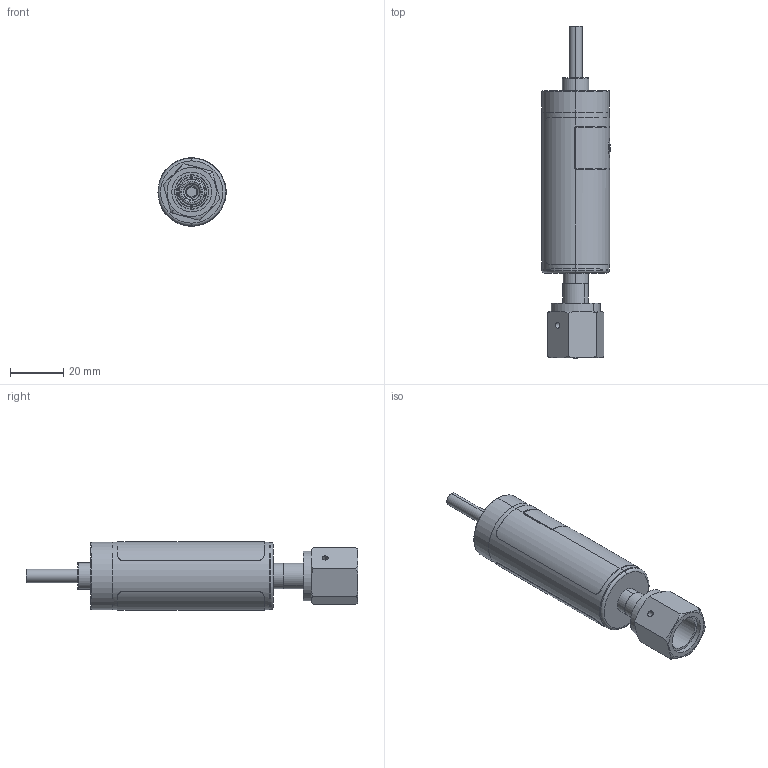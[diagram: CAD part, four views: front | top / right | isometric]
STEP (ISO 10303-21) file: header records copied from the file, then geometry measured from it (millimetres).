
FILE_DESCRIPTION (( 'STEP AP203' ), '1' );
FILE_NAME ('GSD-XXXXXX-P-XXX-SF.STEP', '2025-06-25T14:10:56', ( '' ), ( '' ), 'SwSTEP 2.0', 'SolidWorks 2023', '' );
FILE_SCHEMA (( 'CONFIG_CONTROL_DESIGN' ));
Length unit declared in the file: inch
Products named in the file (5): L and P_GIx; ME131190; 333124_A333124002; GSD-XXXXXX-P-XXX-SF; GSx Body_Default No Cable
Assembly tree (4 placements, depth 2):
  GSD-XXXXXX-P-XXX-SF
    GSx Body_Default No Cable
    L and P_GIx
    333124_A333124002
    ME131190
Bounding box: 25.65 x 124.84 x 25.76 mm (x, y, z)
Volume: 13493.8 mm3; surface area: 17628.8 mm2
Topology: 8 solids, 8 shells, 219 faces, 515 edges, 330 vertices
Faces by surface type: cylinder 74, plane 73, bspline 34, torus 20, cone 18
Entity records: 10405 total; most frequent: CARTESIAN_POINT 5002, ORIENTED_EDGE 1030, DIRECTION 972, EDGE_CURVE 515, AXIS2_PLACEMENT_3D 408, VERTEX_POINT 330, EDGE_LOOP 253, FACE_OUTER_BOUND 219
